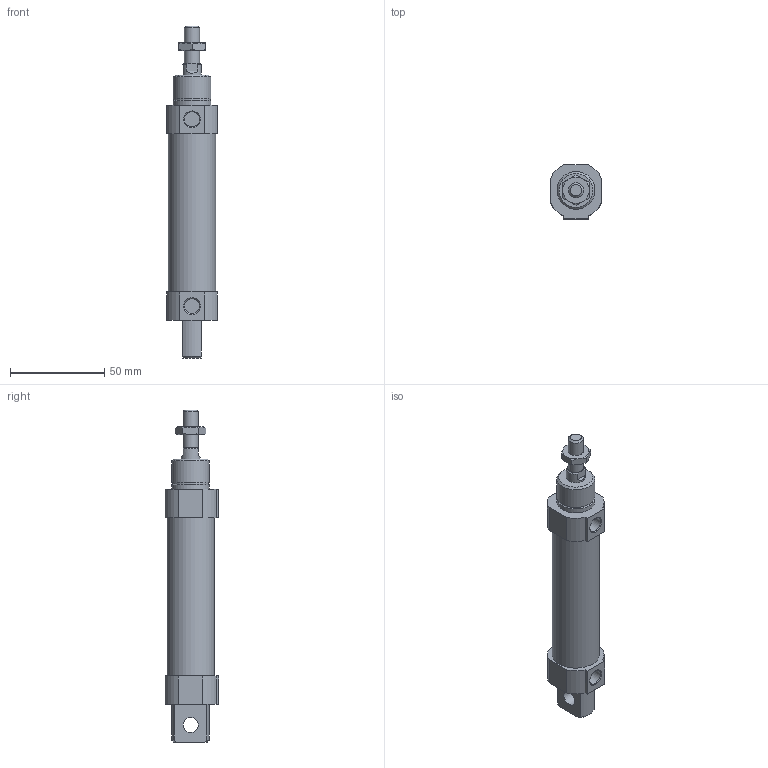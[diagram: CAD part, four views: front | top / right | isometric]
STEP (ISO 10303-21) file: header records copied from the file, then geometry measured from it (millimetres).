
FILE_DESCRIPTION((''),'2;1');
FILE_NAME('I:\3D電子目錄\氣缸\FDA\FDA\FDA\FDA20\FDA20x50.stp','2007-10-16T09:49:36',('66-2f-008'),(''),'Autodesk Inventor 11','Autodesk Inventor 11','');
FILE_SCHEMA(('AUTOMOTIVE_DESIGN { 1 0 10303 214 1 1 1 1 }'));
Length unit declared in the file: millimetre
Products named in the file (1): FDA20
Bounding box: 27 x 28.5 x 176 mm (x, y, z)
Volume: 70815.1 mm3; surface area: 14785.7 mm2
Topology: 1 solids, 1 shells, 77 faces, 178 edges, 112 vertices
Faces by surface type: plane 37, cone 20, cylinder 19, torus 1
Full cylindrical faces by diameter (mm): 8 x5, 10 x1, 20 x2, 25 x1
Entity records: 2081 total; most frequent: CARTESIAN_POINT 414, DIRECTION 348, ORIENTED_EDGE 324, EDGE_CURVE 162, AXIS2_PLACEMENT_3D 140, VERTEX_POINT 110, EDGE_LOOP 102, FACE_OUTER_BOUND 77
